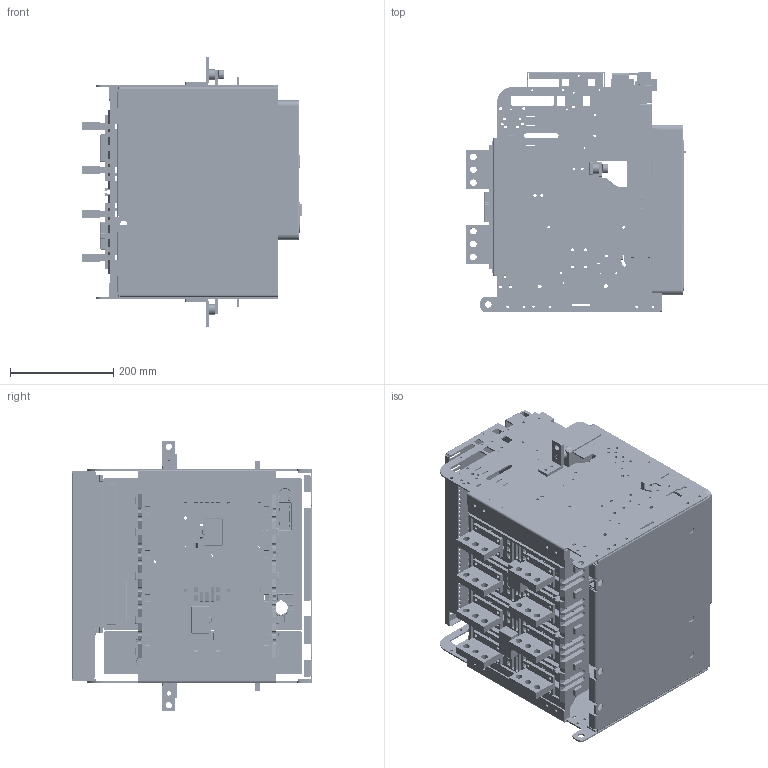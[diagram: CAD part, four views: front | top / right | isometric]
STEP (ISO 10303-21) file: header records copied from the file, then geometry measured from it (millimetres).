
FILE_DESCRIPTION((''),'2;1');
FILE_NAME('HG_06_A204V_ASM_ASM','2019-03-27T',('HHI'),(''),'PRO/ENGINEER BY PARAMETRIC TECHNOLOGY CORPORATION, 2012453','PRO/ENGINEER BY PARAMETRIC TECHNOLOGY CORPORATION, 2012453','');
FILE_SCHEMA(('CONFIG_CONTROL_DESIGN'));
Products named in the file (41): PRT0027; PRT0028; ASM0008_ASM; PRT0029; MANIFOLD_SOLID_BREP_26915; MANIFOLD_SOLID_BREP_27135; ASM0009_ASM; PRT0030; PRT0031; PRT0032; PRT0033; PRT0034; PRT0035; PRT0036; PRT0037; PRT0038; ASM0012_ASM; PRT0039; PRT0040; PRT0041; ASM0013_ASM; PRT0042; ASM0011_ASM; PRT0043; ASM0010_ASM; PRT0044; PRT0045; PRT0046; PRT0047; PRT0048; ASM0014_ASM; PRT0049; PRT0050; FIX_BLOCK_CRADLE_6; ASM0015_ASM; PRT0051; A204V_ASM_10_ASM; HG_FRONT_COVER_20; 4AT-06477S03; 4AT-06477S04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
Assembly tree (47 placements, depth 6):
  HG_06_A204V_ASM_ASM
    A204V_ASM_10_ASM
      ASM0008_ASM
        PRT0027
        PRT0028
      PRT0029
      ASM0009_ASM
        MANIFOLD_SOLID_BREP_26915
        MANIFOLD_SOLID_BREP_27135
      PRT0030
      PRT0031
      PRT0032
      PRT0033
      ASM0010_ASM
        ASM0011_ASM
          PRT0034
          ASM0012_ASM
            PRT0035
            PRT0036
            PRT0037
            PRT0038
          ASM0013_ASM
            PRT0039
            PRT0040
            PRT0041
          PRT0042
        PRT0043
      PRT0044
      ASM0014_ASM
        PRT0045
        PRT0046
        PRT0047
        PRT0048
      ASM0015_ASM
        PRT0049
        PRT0050
        FIX_BLOCK_CRADLE_6
      PRT0051  x8
    HG_FRONT_COVER_20
    4AT-06477S03
    4AT-06477S04
Bounding box: 428.03 x 466.35 x 525.1 mm (x, y, z)
Volume: 5239803.1 mm3; surface area: 3311750.8 mm2
Topology: 38 solids, 55 shells, 14421 faces, 42385 edges, 27779 vertices
Faces by surface type: plane 10966, cylinder 2790, torus 253, extrusion 175, sphere 122, cone 65, bspline 50
Entity records: 475781 total; most frequent: CARTESIAN_POINT 89760, ORIENTED_EDGE 83296, DIRECTION 75591, EDGE_CURVE 41779, VECTOR 35019, LINE 34844, VERTEX_POINT 27415, AXIS2_PLACEMENT_3D 20286
